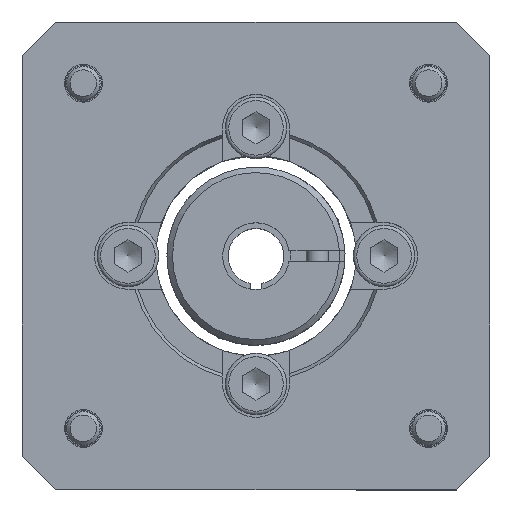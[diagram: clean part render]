
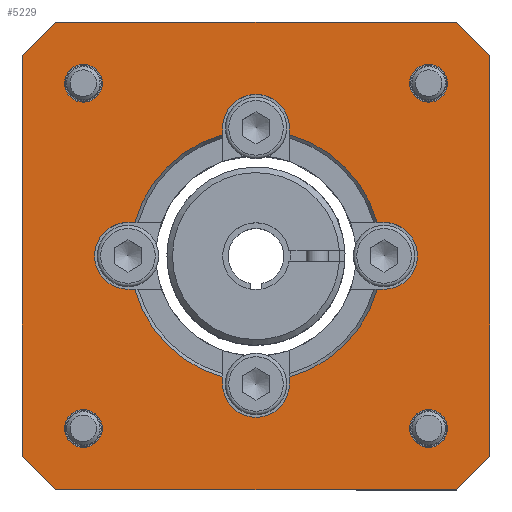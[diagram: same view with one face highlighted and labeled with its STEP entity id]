
A CAD part, top view. The second image highlights one B-rep face of the part: STEP entity #5229.
In plain terms, the highlighted planar face has unit normal (0, 0, 1).
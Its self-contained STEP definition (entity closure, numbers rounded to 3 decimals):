
#262=LINE($,#8274,#632);
#269=LINE($,#8303,#639);
#276=LINE($,#8332,#646);
#283=LINE($,#8361,#653);
#289=LINE($,#8384,#659);
#293=LINE($,#8392,#663);
#297=LINE($,#8400,#667);
#302=LINE($,#8417,#672);
#305=LINE($,#8428,#675);
#306=LINE($,#8430,#676);
#307=LINE($,#8432,#677);
#308=LINE($,#8434,#678);
#309=LINE($,#8436,#679);
#310=LINE($,#8438,#680);
#311=LINE($,#8440,#681);
#312=LINE($,#8441,#682);
#632=VECTOR($,#6624,0.617);
#639=VECTOR($,#6643,0.617);
#646=VECTOR($,#6662,0.617);
#653=VECTOR($,#6681,0.617);
#659=VECTOR($,#6709,0.617);
#663=VECTOR($,#6715,0.617);
#667=VECTOR($,#6721,0.617);
#672=VECTOR($,#6740,0.617);
#675=VECTOR($,#6753,4.243);
#676=VECTOR($,#6754,36.);
#677=VECTOR($,#6755,4.243);
#678=VECTOR($,#6756,36.);
#679=VECTOR($,#6757,4.243);
#680=VECTOR($,#6758,36.);
#681=VECTOR($,#6759,4.243);
#682=VECTOR($,#6760,36.);
#953=PLANE($,#5701);
#1179=FACE_BOUND($,#1771,.T.);
#1180=FACE_BOUND($,#1772,.T.);
#1181=FACE_BOUND($,#1773,.T.);
#1182=FACE_BOUND($,#1774,.T.);
#1183=FACE_BOUND($,#1775,.T.);
#1184=FACE_BOUND($,#1776,.T.);
#1771=EDGE_LOOP($,(#4135));
#1772=EDGE_LOOP($,(#4136));
#1773=EDGE_LOOP($,(#4137));
#1774=EDGE_LOOP($,(#4138));
#1775=EDGE_LOOP($,(#4139,#4140,#4141,#4142,#4143,#4144,#4145,#4146,#4147,
#4148,#4149,#4150,#4151,#4152,#4153,#4154));
#1776=EDGE_LOOP($,(#4155,#4156,#4157,#4158,#4159,#4160,#4161,#4162));
#2157=CIRCLE($,#5637,1.7);
#2161=CIRCLE($,#5644,1.7);
#2165=CIRCLE($,#5651,1.7);
#2169=CIRCLE($,#5658,1.7);
#2170=CIRCLE($,#5660,11.289);
#2173=CIRCLE($,#5666,11.289);
#2176=CIRCLE($,#5672,11.289);
#2179=CIRCLE($,#5678,11.289);
#2191=CIRCLE($,#5702,3.);
#2192=CIRCLE($,#5703,3.);
#2193=CIRCLE($,#5704,3.);
#2194=CIRCLE($,#5705,3.);
#2498=VERTEX_POINT($,#8215);
#2502=VERTEX_POINT($,#8226);
#2506=VERTEX_POINT($,#8237);
#2510=VERTEX_POINT($,#8248);
#2512=VERTEX_POINT($,#8252);
#2513=VERTEX_POINT($,#8256);
#2519=VERTEX_POINT($,#8272);
#2522=VERTEX_POINT($,#8281);
#2523=VERTEX_POINT($,#8285);
#2529=VERTEX_POINT($,#8301);
#2532=VERTEX_POINT($,#8310);
#2533=VERTEX_POINT($,#8314);
#2539=VERTEX_POINT($,#8330);
#2542=VERTEX_POINT($,#8339);
#2543=VERTEX_POINT($,#8343);
#2549=VERTEX_POINT($,#8359);
#2555=VERTEX_POINT($,#8383);
#2558=VERTEX_POINT($,#8391);
#2561=VERTEX_POINT($,#8399);
#2566=VERTEX_POINT($,#8416);
#2568=VERTEX_POINT($,#8426);
#2569=VERTEX_POINT($,#8427);
#2570=VERTEX_POINT($,#8429);
#2571=VERTEX_POINT($,#8431);
#2572=VERTEX_POINT($,#8433);
#2573=VERTEX_POINT($,#8435);
#2574=VERTEX_POINT($,#8437);
#2575=VERTEX_POINT($,#8439);
#3071=EDGE_CURVE($,#2498,#2498,#2157,.T.);
#3075=EDGE_CURVE($,#2502,#2502,#2161,.T.);
#3079=EDGE_CURVE($,#2506,#2506,#2165,.T.);
#3083=EDGE_CURVE($,#2510,#2510,#2169,.T.);
#3085=EDGE_CURVE($,#2512,#2513,#2170,.T.);
#3093=EDGE_CURVE($,#2519,#2512,#262,.T.);
#3097=EDGE_CURVE($,#2522,#2523,#2173,.T.);
#3105=EDGE_CURVE($,#2529,#2522,#269,.T.);
#3109=EDGE_CURVE($,#2532,#2533,#2176,.T.);
#3117=EDGE_CURVE($,#2539,#2532,#276,.T.);
#3121=EDGE_CURVE($,#2542,#2543,#2179,.T.);
#3129=EDGE_CURVE($,#2549,#2542,#283,.T.);
#3140=EDGE_CURVE($,#2543,#2555,#289,.T.);
#3144=EDGE_CURVE($,#2533,#2558,#293,.T.);
#3148=EDGE_CURVE($,#2523,#2561,#297,.T.);
#3158=EDGE_CURVE($,#2513,#2566,#302,.T.);
#3161=EDGE_CURVE($,#2555,#2519,#2191,.T.);
#3162=EDGE_CURVE($,#2558,#2549,#2192,.T.);
#3163=EDGE_CURVE($,#2561,#2539,#2193,.T.);
#3164=EDGE_CURVE($,#2566,#2529,#2194,.T.);
#3165=EDGE_CURVE($,#2568,#2569,#305,.T.);
#3166=EDGE_CURVE($,#2570,#2568,#306,.T.);
#3167=EDGE_CURVE($,#2571,#2570,#307,.T.);
#3168=EDGE_CURVE($,#2572,#2571,#308,.T.);
#3169=EDGE_CURVE($,#2573,#2572,#309,.T.);
#3170=EDGE_CURVE($,#2574,#2573,#310,.T.);
#3171=EDGE_CURVE($,#2575,#2574,#311,.T.);
#3172=EDGE_CURVE($,#2569,#2575,#312,.T.);
#4135=ORIENTED_EDGE($,*,*,#3071,.T.);
#4136=ORIENTED_EDGE($,*,*,#3075,.T.);
#4137=ORIENTED_EDGE($,*,*,#3079,.T.);
#4138=ORIENTED_EDGE($,*,*,#3083,.T.);
#4139=ORIENTED_EDGE($,*,*,#3085,.F.);
#4140=ORIENTED_EDGE($,*,*,#3093,.F.);
#4141=ORIENTED_EDGE($,*,*,#3161,.F.);
#4142=ORIENTED_EDGE($,*,*,#3140,.F.);
#4143=ORIENTED_EDGE($,*,*,#3121,.F.);
#4144=ORIENTED_EDGE($,*,*,#3129,.F.);
#4145=ORIENTED_EDGE($,*,*,#3162,.F.);
#4146=ORIENTED_EDGE($,*,*,#3144,.F.);
#4147=ORIENTED_EDGE($,*,*,#3109,.F.);
#4148=ORIENTED_EDGE($,*,*,#3117,.F.);
#4149=ORIENTED_EDGE($,*,*,#3163,.F.);
#4150=ORIENTED_EDGE($,*,*,#3148,.F.);
#4151=ORIENTED_EDGE($,*,*,#3097,.F.);
#4152=ORIENTED_EDGE($,*,*,#3105,.F.);
#4153=ORIENTED_EDGE($,*,*,#3164,.F.);
#4154=ORIENTED_EDGE($,*,*,#3158,.F.);
#4155=ORIENTED_EDGE($,*,*,#3165,.F.);
#4156=ORIENTED_EDGE($,*,*,#3166,.F.);
#4157=ORIENTED_EDGE($,*,*,#3167,.F.);
#4158=ORIENTED_EDGE($,*,*,#3168,.F.);
#4159=ORIENTED_EDGE($,*,*,#3169,.F.);
#4160=ORIENTED_EDGE($,*,*,#3170,.F.);
#4161=ORIENTED_EDGE($,*,*,#3171,.F.);
#4162=ORIENTED_EDGE($,*,*,#3172,.F.);
#5229=ADVANCED_FACE($,(#1179,#1180,#1181,#1182,#1183,#1184),#953,.T.);
#5637=AXIS2_PLACEMENT_3D($,#8216,#6567,#6568);
#5644=AXIS2_PLACEMENT_3D($,#8227,#6581,#6582);
#5651=AXIS2_PLACEMENT_3D($,#8238,#6595,#6596);
#5658=AXIS2_PLACEMENT_3D($,#8249,#6609,#6610);
#5660=AXIS2_PLACEMENT_3D($,#8257,#6613,#6614);
#5666=AXIS2_PLACEMENT_3D($,#8286,#6632,#6633);
#5672=AXIS2_PLACEMENT_3D($,#8315,#6651,#6652);
#5678=AXIS2_PLACEMENT_3D($,#8344,#6670,#6671);
#5701=AXIS2_PLACEMENT_3D($,#8421,#6743,#6744);
#5702=AXIS2_PLACEMENT_3D($,#8422,#6745,#6746);
#5703=AXIS2_PLACEMENT_3D($,#8423,#6747,#6748);
#5704=AXIS2_PLACEMENT_3D($,#8424,#6749,#6750);
#5705=AXIS2_PLACEMENT_3D($,#8425,#6751,#6752);
#6567=DIRECTION('center_axis',(0.,0.,-1.));
#6568=DIRECTION('ref_axis',(0.,1.,0.));
#6581=DIRECTION('center_axis',(0.,0.,-1.));
#6582=DIRECTION('ref_axis',(1.,0.,0.));
#6595=DIRECTION('center_axis',(0.,0.,-1.));
#6596=DIRECTION('ref_axis',(0.,-1.,0.));
#6609=DIRECTION('center_axis',(0.,0.,-1.));
#6610=DIRECTION('ref_axis',(-1.,0.,0.));
#6613=DIRECTION('center_axis',(0.,0.,1.));
#6614=DIRECTION('ref_axis',(-1.,0.,0.));
#6624=DIRECTION($,(1.,0.,0.));
#6632=DIRECTION('center_axis',(0.,0.,1.));
#6633=DIRECTION('ref_axis',(1.,0.,0.));
#6643=DIRECTION($,(0.,1.,0.));
#6651=DIRECTION('center_axis',(0.,0.,1.));
#6652=DIRECTION('ref_axis',(1.,0.,0.));
#6662=DIRECTION($,(-1.,0.,0.));
#6670=DIRECTION('center_axis',(0.,0.,1.));
#6671=DIRECTION('ref_axis',(-1.,0.,0.));
#6681=DIRECTION($,(0.,-1.,0.));
#6709=DIRECTION($,(-1.,0.,0.));
#6715=DIRECTION($,(0.,1.,0.));
#6721=DIRECTION($,(1.,0.,0.));
#6740=DIRECTION($,(0.,-1.,0.));
#6743=DIRECTION('center_axis',(0.,0.,1.));
#6744=DIRECTION('ref_axis',(1.,0.,0.));
#6745=DIRECTION('center_axis',(0.,0.,1.));
#6746=DIRECTION('ref_axis',(0.,1.,0.));
#6747=DIRECTION('center_axis',(0.,0.,1.));
#6748=DIRECTION('ref_axis',(1.,0.,0.));
#6749=DIRECTION('center_axis',(0.,0.,1.));
#6750=DIRECTION('ref_axis',(0.,-1.,0.));
#6751=DIRECTION('center_axis',(0.,0.,1.));
#6752=DIRECTION('ref_axis',(-1.,0.,0.));
#6753=DIRECTION($,(-0.707,0.707,0.));
#6754=DIRECTION($,(-1.,0.,0.));
#6755=DIRECTION($,(-0.707,-0.707,0.));
#6756=DIRECTION($,(0.,-1.,0.));
#6757=DIRECTION($,(0.707,-0.707,0.));
#6758=DIRECTION($,(1.,0.,0.));
#6759=DIRECTION($,(0.707,0.707,0.));
#6760=DIRECTION($,(0.,1.,0.));
#8215=CARTESIAN_POINT('',(15.5,13.8,-3.5));
#8216=CARTESIAN_POINT('Origin',(15.5,15.5,-3.5));
#8226=CARTESIAN_POINT('',(13.8,-15.5,-3.5));
#8227=CARTESIAN_POINT('Origin',(15.5,-15.5,-3.5));
#8237=CARTESIAN_POINT('',(-15.5,-13.8,-3.5));
#8238=CARTESIAN_POINT('Origin',(-15.5,-15.5,-3.5));
#8248=CARTESIAN_POINT('',(-13.8,15.5,-3.5));
#8249=CARTESIAN_POINT('Origin',(-15.5,15.5,-3.5));
#8252=CARTESIAN_POINT('',(-10.883,-3.,-3.5));
#8256=CARTESIAN_POINT('',(-3.,-10.883,-3.5));
#8257=CARTESIAN_POINT('Origin',(0.,0.,
-3.5));
#8272=CARTESIAN_POINT('',(-11.5,-3.,-3.5));
#8274=CARTESIAN_POINT($,(-5.75,-3.,-3.5));
#8281=CARTESIAN_POINT('',(3.,-10.883,-3.5));
#8285=CARTESIAN_POINT('',(10.883,-3.,-3.5));
#8286=CARTESIAN_POINT('Origin',(0.,0.,
-3.5));
#8301=CARTESIAN_POINT('',(3.,-11.5,-3.5));
#8303=CARTESIAN_POINT($,(3.,-5.75,-3.5));
#8310=CARTESIAN_POINT('',(10.883,3.,-3.5));
#8314=CARTESIAN_POINT('',(3.,10.883,-3.5));
#8315=CARTESIAN_POINT('Origin',(0.,0.,
-3.5));
#8330=CARTESIAN_POINT('',(11.5,3.,-3.5));
#8332=CARTESIAN_POINT($,(5.75,3.,-3.5));
#8339=CARTESIAN_POINT('',(-3.,10.883,-3.5));
#8343=CARTESIAN_POINT('',(-10.883,3.,-3.5));
#8344=CARTESIAN_POINT('Origin',(0.,0.,
-3.5));
#8359=CARTESIAN_POINT('',(-3.,11.5,-3.5));
#8361=CARTESIAN_POINT($,(-3.,5.75,-3.5));
#8383=CARTESIAN_POINT('',(-11.5,3.,-3.5));
#8384=CARTESIAN_POINT($,(-1.5,3.,-3.5));
#8391=CARTESIAN_POINT('',(3.,11.5,-3.5));
#8392=CARTESIAN_POINT($,(3.,1.5,-3.5));
#8399=CARTESIAN_POINT('',(11.5,-3.,-3.5));
#8400=CARTESIAN_POINT($,(1.5,-3.,-3.5));
#8416=CARTESIAN_POINT('',(-3.,-11.5,-3.5));
#8417=CARTESIAN_POINT($,(-3.,-1.5,-3.5));
#8421=CARTESIAN_POINT('Origin',(0.,0.,
-3.5));
#8422=CARTESIAN_POINT('Origin',(-11.5,0.,-3.5));
#8423=CARTESIAN_POINT('Origin',(0.,11.5,-3.5));
#8424=CARTESIAN_POINT('Origin',(11.5,0.,-3.5));
#8425=CARTESIAN_POINT('Origin',(0.,-11.5,-3.5));
#8426=CARTESIAN_POINT('',(-18.,-21.,-3.5));
#8427=CARTESIAN_POINT('',(-21.,-18.,-3.5));
#8428=CARTESIAN_POINT($,(-20.25,-18.75,-3.5));
#8429=CARTESIAN_POINT('',(18.,-21.,-3.5));
#8430=CARTESIAN_POINT($,(-9.,-21.,-3.5));
#8431=CARTESIAN_POINT('',(21.,-18.,-3.5));
#8432=CARTESIAN_POINT($,(18.75,-20.25,-3.5));
#8433=CARTESIAN_POINT('',(21.,18.,-3.5));
#8434=CARTESIAN_POINT($,(21.,-9.,-3.5));
#8435=CARTESIAN_POINT('',(18.,21.,-3.5));
#8436=CARTESIAN_POINT($,(20.25,18.75,-3.5));
#8437=CARTESIAN_POINT('',(-18.,21.,-3.5));
#8438=CARTESIAN_POINT($,(9.,21.,-3.5));
#8439=CARTESIAN_POINT('',(-21.,18.,-3.5));
#8440=CARTESIAN_POINT($,(-18.75,20.25,-3.5));
#8441=CARTESIAN_POINT($,(-21.,9.,-3.5));
